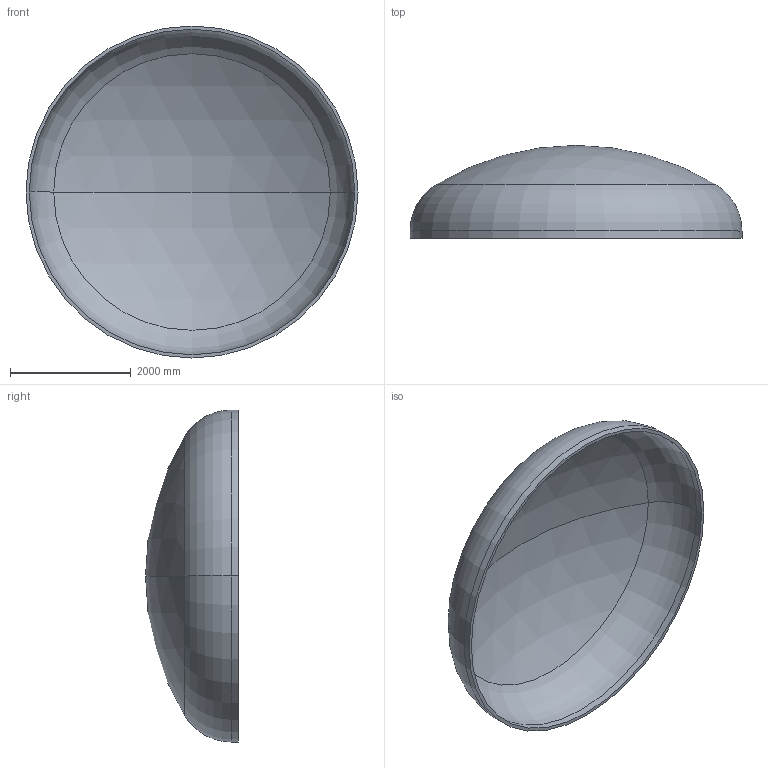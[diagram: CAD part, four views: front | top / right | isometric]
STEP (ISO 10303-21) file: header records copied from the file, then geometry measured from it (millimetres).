
FILE_DESCRIPTION (( 'STEP AP203' ), '1' );
FILE_NAME ('DIN 28013 Korbbogenform_-_Boden DIN 28013 - 5500 x 120 - I - s=54.step', '2016-07-04T10:34:27', ( '' ), ( '' ), 'SwSTEP 2.0', 'SolidWorks 2013', '' );
FILE_SCHEMA (( 'CONFIG_CONTROL_DESIGN' ));
Length unit declared in the file: millimetre
Products named in the file (1): DIN 28013 Korbbogenform_-_Boden DIN 28013 - 5500 x 120 - I - s=54
Bounding box: 5500 x 1538.9 x 5500 mm (x, y, z)
Volume: 1863997988 mm3; surface area: 69966935.7 mm2
Topology: 1 solids, 1 shells, 13 faces, 24 edges, 14 vertices
Faces by surface type: torus 4, cylinder 4, sphere 4, plane 1
Entity records: 407 total; most frequent: DIRECTION 72, CARTESIAN_POINT 52, ORIENTED_EDGE 48, AXIS2_PLACEMENT_3D 34, EDGE_CURVE 24, CIRCLE 20, VERTEX_POINT 14, EDGE_LOOP 14
